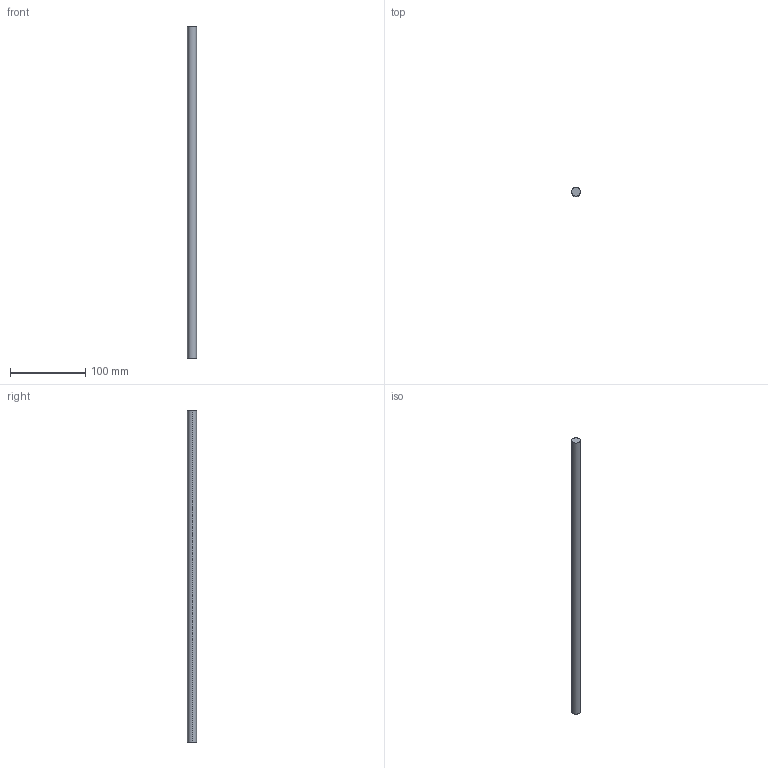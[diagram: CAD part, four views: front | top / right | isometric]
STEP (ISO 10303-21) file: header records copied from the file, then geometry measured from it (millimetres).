
FILE_DESCRIPTION (( 'STEP AP214' ), '1' );
FILE_NAME ('Magic Reling längs - 480.step', '2010-09-07T14:56:17', ( 'grass' ), ( '' ), 'SwSTEP 2.0', 'SolidWorks 2010', '' );
FILE_SCHEMA (( 'AUTOMOTIVE_DESIGN' ));
Length unit declared in the file: millimetre
Products named in the file (1): Magic Reling längs - 480
Bounding box: 12 x 12 x 442 mm (x, y, z)
Volume: 49989 mm3; surface area: 16889.2 mm2
Topology: 1 solids, 1 shells, 4 faces, 6 edges, 4 vertices
Faces by surface type: cylinder 2, plane 2
Entity records: 128 total; most frequent: DIRECTION 20, CARTESIAN_POINT 15, ORIENTED_EDGE 12, AXIS2_PLACEMENT_3D 9, EDGE_CURVE 6, EDGE_LOOP 4, FACE_OUTER_BOUND 4, CIRCLE 4
